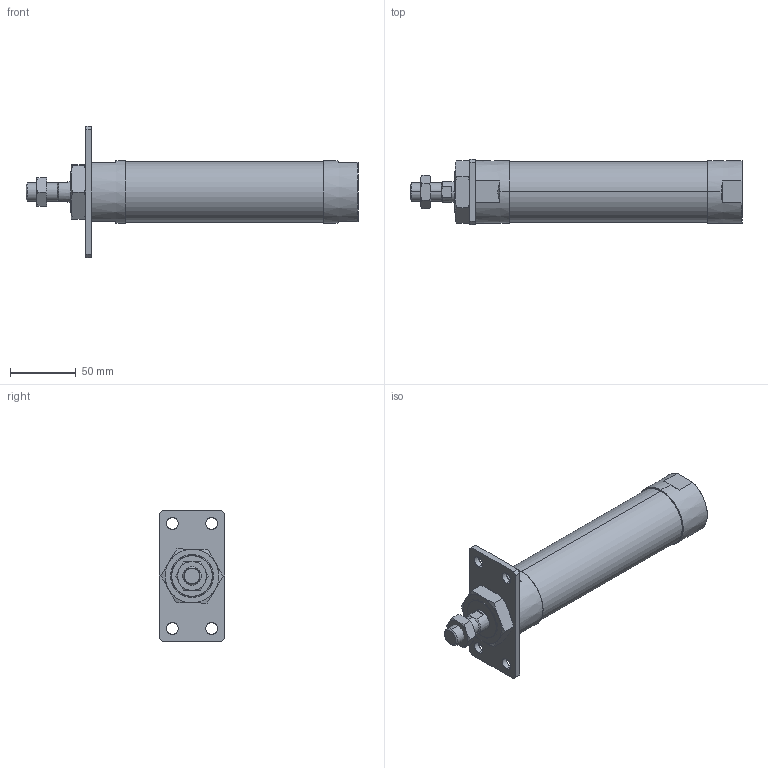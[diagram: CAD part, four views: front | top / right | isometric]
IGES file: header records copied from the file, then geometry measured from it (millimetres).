
Start section: SolidWorks IGES file using analytic representation for surfaces
Global section: file name: C:\Users\Toshiba\Desktop\JGND2-40-100-A.IGS; native system: SolidWorks 2014; preprocessor: SolidWorks 2014; author: Toshiba; date: 160804.110958; units: millimetre
Bounding box: 253 x 50 x 100 mm (x, y, z)
Surface area: 53345.3 mm2 (no closed solid volume)
Topology: 0 solids, 0 shells, 109 faces, 2174 edges, 2170 vertices
Faces by surface type: bspline 66, revolution 43
